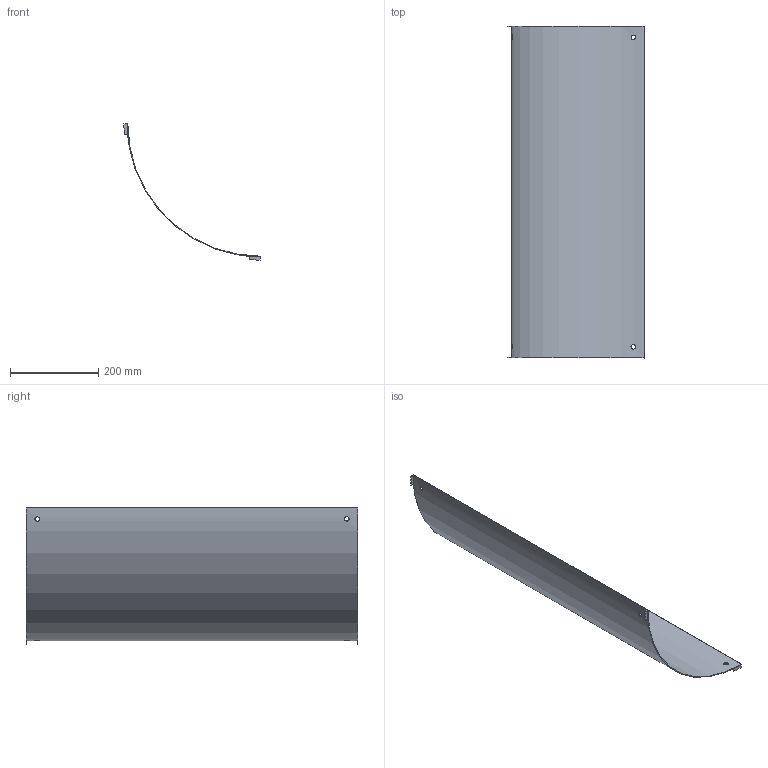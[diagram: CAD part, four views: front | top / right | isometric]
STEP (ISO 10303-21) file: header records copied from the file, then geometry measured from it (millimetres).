
FILE_DESCRIPTION(/* description */ ('','CAx-IF Rec.Pracs.---Representation and Presentation of Product Manufacturing Information (PMI)---4.0---2014-10-13'),/* implementation_level */ '2;1');
FILE_NAME(/* name */ 'Eurostrut_EIRC700-90-300_Cover Inside Riser 90 for Cable Ladder ECL.step',/* time_stamp */ '2026-09-10T11:55:48+02:00',/* author */ (''),/* organization */ (''),/* preprocessor_version */ 'ST-DEVELOPER v20.1',/* originating_system */ 'Autodesk Revit 2027 27.2.0.39',/* authorisation */ '');
FILE_SCHEMA (('AP242_MANAGED_MODEL_BASED_3D_ENGINEERING_MIM_LF { 1 0 10303 442 2 1 4 }'));
Length unit declared in the file: millimetre
Products named in the file (3): TopLevelAssembly; Sweep; Joined Solid Geometry
Assembly tree (2 placements, depth 2):
  TopLevelAssembly
    Sweep
    Joined Solid Geometry
Bounding box: 309 x 753 x 309 mm (x, y, z)
Volume: 534250 mm3; surface area: 716588.8 mm2
Topology: 5 solids, 5 shells, 38 faces, 84 edges, 56 vertices
Faces by surface type: plane 20, cylinder 18
Entity records: 1358 total; most frequent: CARTESIAN_POINT 461, DIRECTION 174, ORIENTED_EDGE 168, EDGE_CURVE 84, AXIS2_PLACEMENT_3D 63, VERTEX_POINT 56, LINE 48, VECTOR 48
